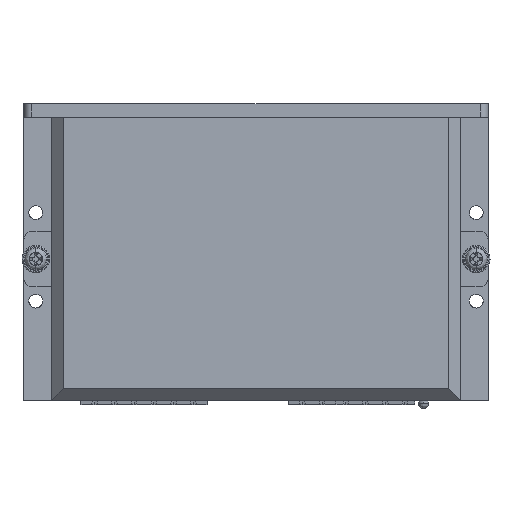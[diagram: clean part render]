
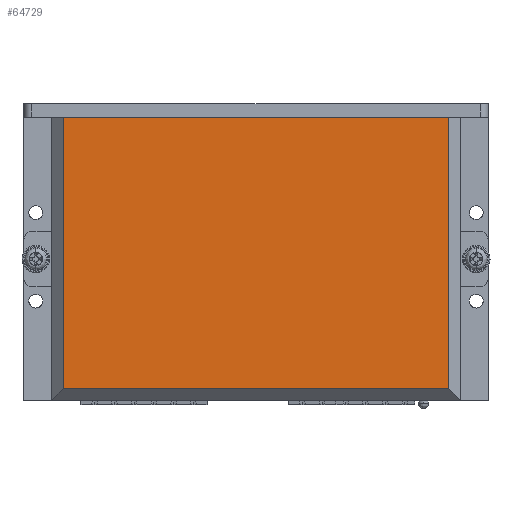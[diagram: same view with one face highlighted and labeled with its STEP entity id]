
A CAD part, top view. The second image highlights one B-rep face of the part: STEP entity #64729.
In plain terms, the highlighted planar face has unit normal (0, 0, 1).
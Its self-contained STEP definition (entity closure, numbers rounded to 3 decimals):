
#872 = CARTESIAN_POINT ( 'NONE',  ( 0., 3., 22. ) ) ;
#5637 = VECTOR ( 'NONE', #34309, 1000. ) ;
#7274 = CARTESIAN_POINT ( 'NONE',  ( 0., 72., 22. ) ) ;
#7535 = VERTEX_POINT ( 'NONE', #22161 ) ;
#12638 = VECTOR ( 'NONE', #50446, 1000. ) ;
#13823 = CARTESIAN_POINT ( 'NONE',  ( -50.96, 1.62, 22. ) ) ;
#17490 = EDGE_LOOP ( 'NONE', ( #24097, #75672, #63813, #72354 ) ) ;
#19693 = EDGE_CURVE ( 'NONE', #24363, #57267, #31331, .T. ) ;
#20004 = DIRECTION ( 'NONE',  ( 1., 0., 0. ) ) ;
#22161 = CARTESIAN_POINT ( 'NONE',  ( 49., 3., 22. ) ) ;
#24097 = ORIENTED_EDGE ( 'NONE', *, *, #52544, .F. ) ;
#24363 = VERTEX_POINT ( 'NONE', #31998 ) ;
#27131 = CARTESIAN_POINT ( 'NONE',  ( 49., 72., 22. ) ) ;
#31331 = LINE ( 'NONE', #7274, #63629 ) ;
#31998 = CARTESIAN_POINT ( 'NONE',  ( -49., 72., 22. ) ) ;
#34309 = DIRECTION ( 'NONE',  ( 0., 1., 0. ) ) ;
#37101 = PLANE ( 'NONE',  #47787 ) ;
#37498 = DIRECTION ( 'NONE',  ( -1., 0., 0. ) ) ;
#38500 = CARTESIAN_POINT ( 'NONE',  ( 49., 36., 22. ) ) ;
#44469 = VERTEX_POINT ( 'NONE', #54824 ) ;
#47036 = LINE ( 'NONE', #38500, #12638 ) ;
#47787 = AXIS2_PLACEMENT_3D ( 'NONE', #13823, #56440, #20004 ) ;
#48111 = EDGE_CURVE ( 'NONE', #7535, #44469, #55991, .T. ) ;
#49716 = DIRECTION ( 'NONE',  ( 1., 0., 0. ) ) ;
#50446 = DIRECTION ( 'NONE',  ( 0., -1., 0. ) ) ;
#52406 = LINE ( 'NONE', #70586, #5637 ) ;
#52544 = EDGE_CURVE ( 'NONE', #44469, #24363, #52406, .T. ) ;
#54824 = CARTESIAN_POINT ( 'NONE',  ( -49., 3., 22. ) ) ;
#55991 = LINE ( 'NONE', #872, #70200 ) ;
#56440 = DIRECTION ( 'NONE',  ( 0., 0., 1. ) ) ;
#57267 = VERTEX_POINT ( 'NONE', #27131 ) ;
#63629 = VECTOR ( 'NONE', #49716, 1000. ) ;
#63813 = ORIENTED_EDGE ( 'NONE', *, *, #74466, .F. ) ;
#64729 = ADVANCED_FACE ( 'NONE', ( #75704 ), #37101, .T. ) ;
#70200 = VECTOR ( 'NONE', #37498, 1000. ) ;
#70586 = CARTESIAN_POINT ( 'NONE',  ( -49., 36., 22. ) ) ;
#72354 = ORIENTED_EDGE ( 'NONE', *, *, #19693, .F. ) ;
#74466 = EDGE_CURVE ( 'NONE', #57267, #7535, #47036, .T. ) ;
#75672 = ORIENTED_EDGE ( 'NONE', *, *, #48111, .F. ) ;
#75704 = FACE_OUTER_BOUND ( 'NONE', #17490, .T. ) ;
